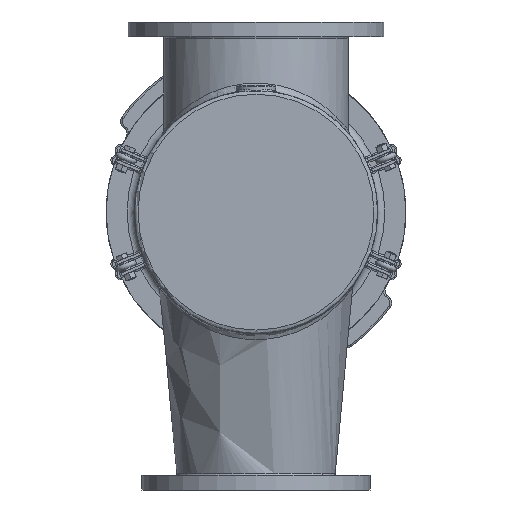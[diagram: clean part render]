
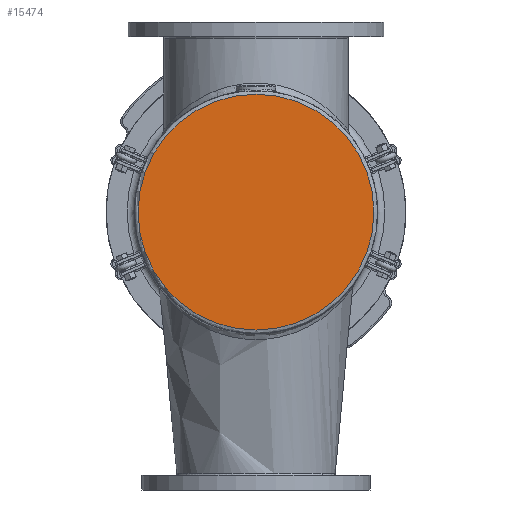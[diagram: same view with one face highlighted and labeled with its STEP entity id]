
A CAD part, front view. The second image highlights one B-rep face of the part: STEP entity #15474.
In plain terms, the highlighted planar face has unit normal (0, -1, 0).
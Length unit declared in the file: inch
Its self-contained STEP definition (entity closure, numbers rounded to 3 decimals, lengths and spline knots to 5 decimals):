
#2229=PLANE('',#16511);
#3512=FACE_OUTER_BOUND('',#4505,.T.);
#4505=EDGE_LOOP('',(#10355));
#5721=CIRCLE('',#16503,8.0625);
#6697=VERTEX_POINT('',#23698);
#8106=EDGE_CURVE('',#6697,#6697,#5721,.T.);
#10355=ORIENTED_EDGE('',*,*,#8106,.F.);
#15474=ADVANCED_FACE('',(#3512),#2229,.F.);
#16503=AXIS2_PLACEMENT_3D('',#23699,#18546,#18547);
#16511=AXIS2_PLACEMENT_3D('',#23710,#18562,#18563);
#18546=DIRECTION('center_axis',(0.,1.,0.));
#18547=DIRECTION('ref_axis',(1.,0.,0.));
#18562=DIRECTION('center_axis',(0.,1.,0.));
#18563=DIRECTION('ref_axis',(0.,0.,1.));
#23698=CARTESIAN_POINT('',(-8.0625,0.,0.));
#23699=CARTESIAN_POINT('Origin',(0.,0.,0.));
#23710=CARTESIAN_POINT('Origin',(0.,0.,0.));
